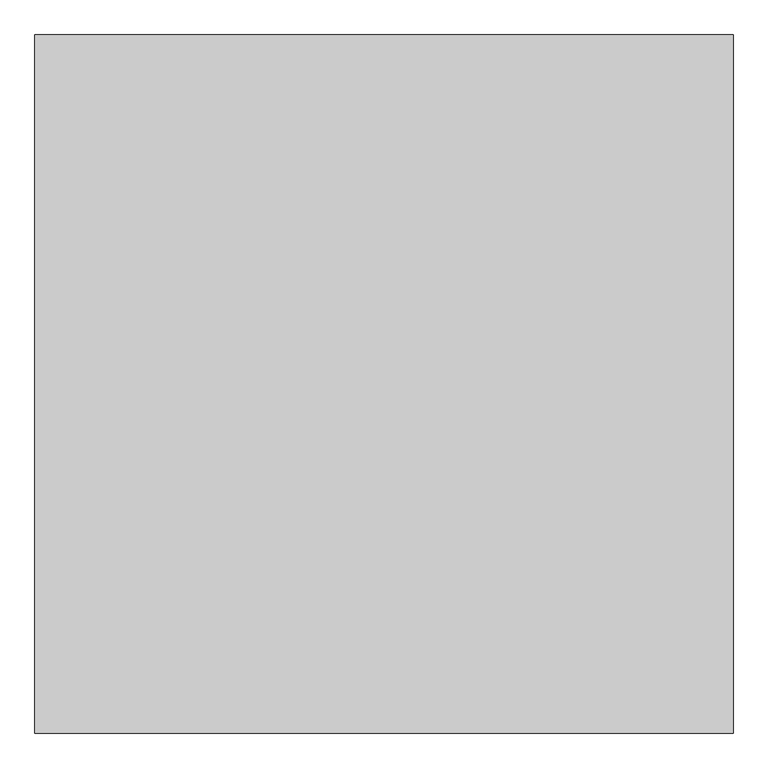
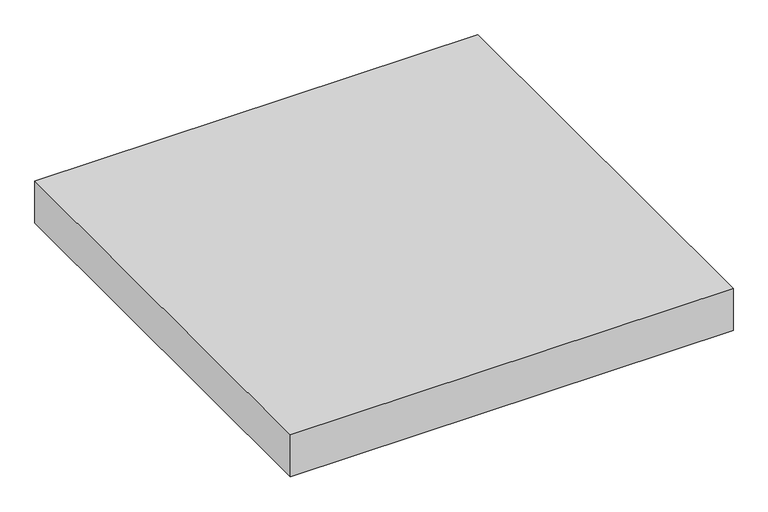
"""IFC4 building model written with IfcOpenShell, lengths in millimetres: proxy geometry, Modelos genéricos 13 : Modelos genéricos 1."""

from ifc_helpers import new_model, si_unit, origin, origin_with_axes, place, context, project, spatial, polyline, outline, extrude, source, transform, mapped, element, save


def generic_models_f087d3d4(model_context):
    return source(origin(), model_context, "Body", "SweptSolid", [
        extrude(outline(polyline([(-3422.6026359, 8954.287186), (-3422.6026359, 7454.287186), (-4922.6026359, 7454.287186), (-4922.6026359, 8954.287186), (-3422.6026359, 8954.287186)])), origin_with_axes(), (0.0, 0.0, 1.0), 150.0),
    ])


if __name__ == "__main__":
    model = new_model("IFC4")
    model_context = context("Model", 3, world=origin())
    ifc_project = project(units=[si_unit("LENGTHUNIT", "METRE", prefix="MILLI")], contexts=[model_context])
    site = spatial("IfcSite", under=ifc_project)
    building = spatial("IfcBuilding", under=site)
    placement = place(None, origin())
    generic_models_shape = generic_models_f087d3d4(model_context)
    element("IfcBuildingElementProxy", 1, Name="Modelos genéricos 13 : Modelos genéricos 1", ObjectType="Modelos genéricos 13 : Modelos genéricos 1", at=placement, inside=building, context=model_context, shape_type="MappedRepresentation", body=[
        mapped(generic_models_shape, transform((0.0, 0.0, 0.0), x_axis=(1.0, 0.0, 0.0), y_axis=(0.0, 1.0, 0.0), z_axis=(0.0, 0.0, 1.0))),
    ])
    save(model, "model.ifc")
